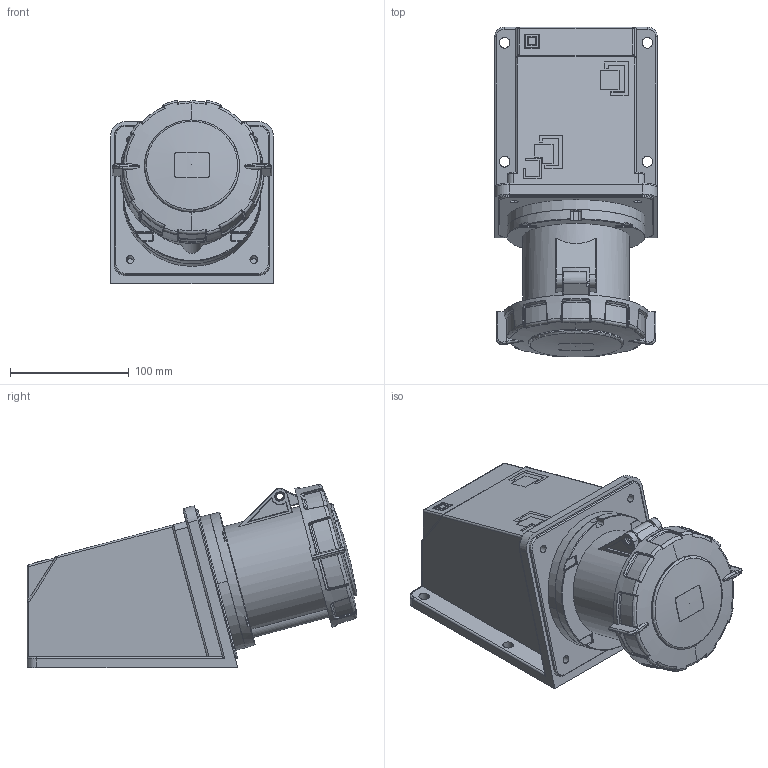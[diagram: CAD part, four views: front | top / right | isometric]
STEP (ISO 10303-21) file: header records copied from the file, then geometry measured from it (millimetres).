
FILE_DESCRIPTION(('FreeCAD Model'),'2;1');
FILE_NAME('Open CASCADE Shape Model','2026-02-04T08:19:03',(''),(''), 'Open CASCADE STEP processor 7.8','FreeCAD','Unknown');
FILE_SCHEMA(('AUTOMOTIVE_DESIGN { 1 0 10303 214 1 1 1 1 }'));
Length unit declared in the file: millimetre
Products named in the file (8): TL3S125643; Tampa parte 2; Estrutura corpo; Terminais; Base tomada externa; Base tomada interna; Corpo tomada; Tampa parte 1
Assembly tree (7 placements, depth 2):
  TL3S125643
    Tampa parte 2
    Estrutura corpo
    Terminais
    Base tomada externa
    Base tomada interna
    Corpo tomada
    Tampa parte 1
Bounding box: 137 x 277.27 x 154.16 mm (x, y, z)
Volume: 1534637.3 mm3; surface area: 392772.6 mm2
Topology: 7 solids, 7 shells, 1613 faces, 4166 edges, 2631 vertices
Faces by surface type: plane 707, cylinder 376, bspline 266, torus 141, cone 56, extrusion 45, sphere 22
Full cylindrical faces by diameter (mm): 6.6 x1, 12.5 x1, 23 x1, 78.4 x1, 79.3 x1, 80 x1, 94.5 x1, 111 x1
Entity records: 66842 total; most frequent: CARTESIAN_POINT 29076, ORIENTED_EDGE 8328, DIRECTION 7156, EDGE_CURVE 4164, VERTEX_POINT 2631, AXIS2_PLACEMENT_3D 2554, VECTOR 2048, LINE 2003
